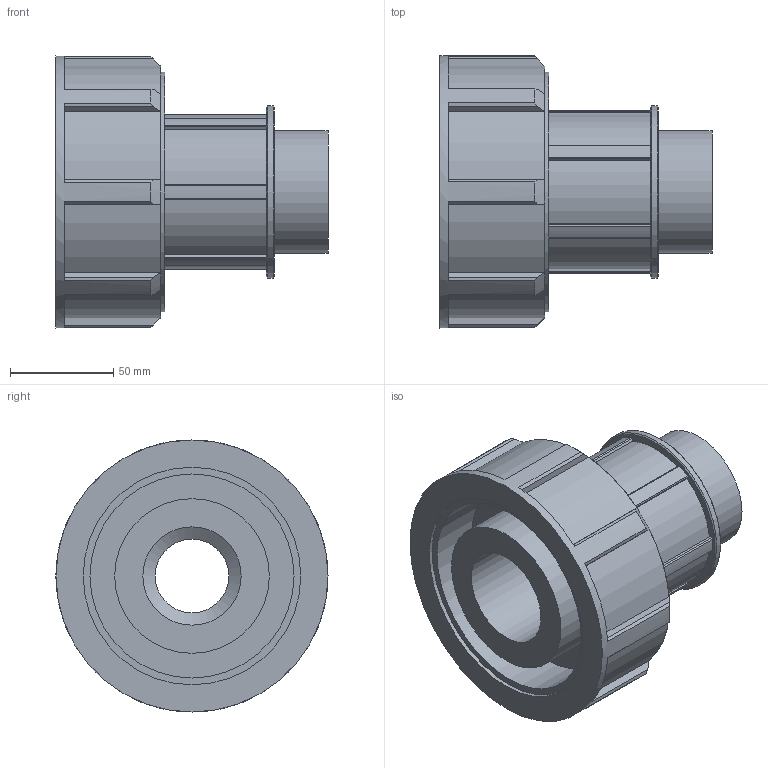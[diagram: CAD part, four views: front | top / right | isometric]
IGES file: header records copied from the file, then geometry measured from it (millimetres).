
Global section: file name: 072500075020_182500075020.ipt; native system: Autodesk Inventor 2015; preprocessor: unknown; author: KIM; date: 20170608.042210; units: millimetre
Bounding box: 132 x 132 x 132 mm (x, y, z)
Volume: 632136.6 mm3; surface area: 112594.8 mm2
Topology: 1 solids, 1 shells, 108 faces, 300 edges, 202 vertices
Faces by surface type: plane 74, cylinder 25, revolution 6, cone 3
Full cylindrical faces by diameter (mm): 59.614 x1, 75 x1, 83.46 x1, 116.16 x1, 132 x1
